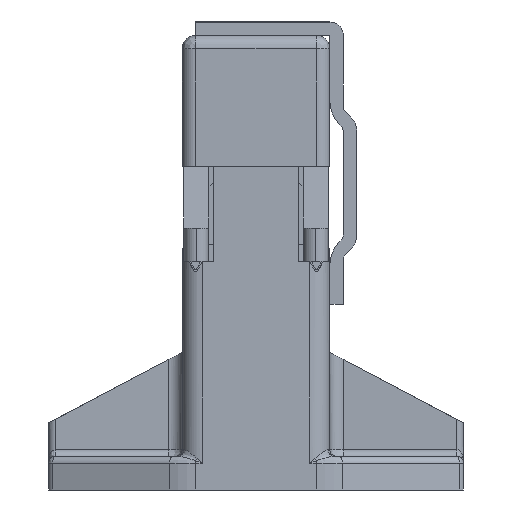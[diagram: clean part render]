
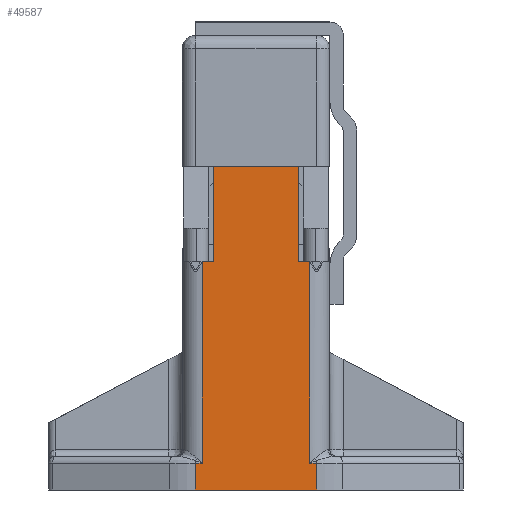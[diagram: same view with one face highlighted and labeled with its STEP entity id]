
A CAD part, left-side view. The second image highlights one B-rep face of the part: STEP entity #49587.
In plain terms, the highlighted planar face has unit normal (-1, 0, 0).
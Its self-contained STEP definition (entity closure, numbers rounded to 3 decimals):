
#695 = DIRECTION ( 'NONE',  ( 0., 1., 0. ) ) ;
#1326 = EDGE_LOOP ( 'NONE', ( #55541, #11215, #26771, #41284, #25121, #40634, #37547, #50617, #35935, #17208, #10681, #40101 ) ) ;
#2056 = AXIS2_PLACEMENT_3D ( 'NONE', #47316, #41494, #695 ) ;
#2362 = DIRECTION ( 'NONE',  ( 0., -1., 0. ) ) ;
#2438 = VECTOR ( 'NONE', #2362, 1000. ) ;
#3015 = DIRECTION ( 'NONE',  ( 0., -1., 0. ) ) ;
#3184 = EDGE_CURVE ( 'NONE', #8952, #31381, #25852, .T. ) ;
#3708 = VECTOR ( 'NONE', #61520, 1000. ) ;
#3818 = EDGE_CURVE ( 'NONE', #61572, #52000, #31095, .T. ) ;
#5808 = EDGE_CURVE ( 'NONE', #63751, #55488, #41902, .T. ) ;
#6009 = LINE ( 'NONE', #42685, #28343 ) ;
#6583 = EDGE_CURVE ( 'NONE', #8952, #55488, #39035, .T. ) ;
#8381 = VERTEX_POINT ( 'NONE', #62496 ) ;
#8471 = VECTOR ( 'NONE', #10167, 1000. ) ;
#8952 = VERTEX_POINT ( 'NONE', #13953 ) ;
#9853 = CARTESIAN_POINT ( 'NONE',  ( -193.899, -11., 10. ) ) ;
#10167 = DIRECTION ( 'NONE',  ( 0., 0., -1. ) ) ;
#10681 = ORIENTED_EDGE ( 'NONE', *, *, #66792, .F. ) ;
#11215 = ORIENTED_EDGE ( 'NONE', *, *, #35086, .F. ) ;
#11462 = DIRECTION ( 'NONE',  ( 0., 0., 1. ) ) ;
#11926 = DIRECTION ( 'NONE',  ( 0., -1., 0. ) ) ;
#12442 = EDGE_CURVE ( 'NONE', #63751, #62540, #49315, .T. ) ;
#12972 = DIRECTION ( 'NONE',  ( 0., -1., 0. ) ) ;
#13162 = CARTESIAN_POINT ( 'NONE',  ( -193.899, -8., -20. ) ) ;
#13953 = CARTESIAN_POINT ( 'NONE',  ( -193.899, 6.4, 24.2 ) ) ;
#15296 = LINE ( 'NONE', #21459, #8471 ) ;
#16323 = LINE ( 'NONE', #9853, #28707 ) ;
#16686 = CARTESIAN_POINT ( 'NONE',  ( -193.899, -6.4, 10. ) ) ;
#17208 = ORIENTED_EDGE ( 'NONE', *, *, #3184, .T. ) ;
#17247 = VECTOR ( 'NONE', #60803, 1000. ) ;
#20989 = CARTESIAN_POINT ( 'NONE',  ( -193.899, -6.4, 24.2 ) ) ;
#21459 = CARTESIAN_POINT ( 'NONE',  ( -193.899, -8., -23.243 ) ) ;
#21519 = VERTEX_POINT ( 'NONE', #38505 ) ;
#22133 = VECTOR ( 'NONE', #41042, 1000. ) ;
#25121 = ORIENTED_EDGE ( 'NONE', *, *, #45957, .F. ) ;
#25559 = VERTEX_POINT ( 'NONE', #13162 ) ;
#25852 = LINE ( 'NONE', #35168, #3708 ) ;
#26283 = CARTESIAN_POINT ( 'NONE',  ( -193.899, 11., -20. ) ) ;
#26384 = PLANE ( 'NONE',  #2056 ) ;
#26596 = DIRECTION ( 'NONE',  ( 0., -1., 0. ) ) ;
#26771 = ORIENTED_EDGE ( 'NONE', *, *, #46037, .T. ) ;
#28029 = LINE ( 'NONE', #59556, #47842 ) ;
#28343 = VECTOR ( 'NONE', #11462, 1000. ) ;
#28707 = VECTOR ( 'NONE', #26596, 1000. ) ;
#28791 = CARTESIAN_POINT ( 'NONE',  ( -193.899, 6.4, 10. ) ) ;
#29044 = VERTEX_POINT ( 'NONE', #66638 ) ;
#30722 = LINE ( 'NONE', #36892, #58201 ) ;
#30880 = CARTESIAN_POINT ( 'NONE',  ( -193.899, -6.4, 24.2 ) ) ;
#30926 = VECTOR ( 'NONE', #12972, 1000. ) ;
#31095 = LINE ( 'NONE', #26283, #22133 ) ;
#31381 = VERTEX_POINT ( 'NONE', #28791 ) ;
#32953 = EDGE_CURVE ( 'NONE', #21519, #8381, #39921, .T. ) ;
#35086 = EDGE_CURVE ( 'NONE', #39579, #61572, #6009, .T. ) ;
#35168 = CARTESIAN_POINT ( 'NONE',  ( -193.899, 6.4, 24.2 ) ) ;
#35935 = ORIENTED_EDGE ( 'NONE', *, *, #6583, .F. ) ;
#36094 = DIRECTION ( 'NONE',  ( 0., 0., 1. ) ) ;
#36892 = CARTESIAN_POINT ( 'NONE',  ( -193.899, 8., -23.243 ) ) ;
#37547 = ORIENTED_EDGE ( 'NONE', *, *, #12442, .F. ) ;
#38505 = CARTESIAN_POINT ( 'NONE',  ( -193.899, -9.011, -20. ) ) ;
#39035 = LINE ( 'NONE', #59919, #30926 ) ;
#39579 = VERTEX_POINT ( 'NONE', #43293 ) ;
#39921 = LINE ( 'NONE', #40921, #17247 ) ;
#40101 = ORIENTED_EDGE ( 'NONE', *, *, #51305, .F. ) ;
#40323 = VECTOR ( 'NONE', #36094, 1000. ) ;
#40634 = ORIENTED_EDGE ( 'NONE', *, *, #46180, .F. ) ;
#40690 = CARTESIAN_POINT ( 'NONE',  ( -193.899, -11., -24. ) ) ;
#40921 = CARTESIAN_POINT ( 'NONE',  ( -193.899, -9.011, 10. ) ) ;
#41001 = DIRECTION ( 'NONE',  ( 0., 0., 1. ) ) ;
#41042 = DIRECTION ( 'NONE',  ( 0., -1., 0. ) ) ;
#41284 = ORIENTED_EDGE ( 'NONE', *, *, #32953, .F. ) ;
#41494 = DIRECTION ( 'NONE',  ( 1., 0., 0. ) ) ;
#41902 = LINE ( 'NONE', #20989, #40323 ) ;
#42169 = FACE_OUTER_BOUND ( 'NONE', #1326, .T. ) ;
#42322 = CARTESIAN_POINT ( 'NONE',  ( -193.899, -8., 10. ) ) ;
#42685 = CARTESIAN_POINT ( 'NONE',  ( -193.899, 9.011, 10. ) ) ;
#43293 = CARTESIAN_POINT ( 'NONE',  ( -193.899, 9.011, -24. ) ) ;
#45957 = EDGE_CURVE ( 'NONE', #25559, #21519, #28029, .T. ) ;
#46037 = EDGE_CURVE ( 'NONE', #39579, #8381, #61918, .T. ) ;
#46180 = EDGE_CURVE ( 'NONE', #62540, #25559, #15296, .T. ) ;
#47316 = CARTESIAN_POINT ( 'NONE',  ( -193.899, 11., 10. ) ) ;
#47842 = VECTOR ( 'NONE', #11926, 1000. ) ;
#49315 = LINE ( 'NONE', #58892, #2438 ) ;
#49587 = ADVANCED_FACE ( 'NONE', ( #42169 ), #26384, .F. ) ;
#50617 = ORIENTED_EDGE ( 'NONE', *, *, #5808, .T. ) ;
#51117 = VECTOR ( 'NONE', #3015, 1000. ) ;
#51305 = EDGE_CURVE ( 'NONE', #52000, #29044, #30722, .T. ) ;
#52000 = VERTEX_POINT ( 'NONE', #55072 ) ;
#52244 = CARTESIAN_POINT ( 'NONE',  ( -193.899, 9.011, -20. ) ) ;
#55072 = CARTESIAN_POINT ( 'NONE',  ( -193.899, 8., -20. ) ) ;
#55488 = VERTEX_POINT ( 'NONE', #30880 ) ;
#55541 = ORIENTED_EDGE ( 'NONE', *, *, #3818, .F. ) ;
#58201 = VECTOR ( 'NONE', #41001, 1000. ) ;
#58892 = CARTESIAN_POINT ( 'NONE',  ( -193.899, -11., 10. ) ) ;
#59556 = CARTESIAN_POINT ( 'NONE',  ( -193.899, 11., -20. ) ) ;
#59919 = CARTESIAN_POINT ( 'NONE',  ( -193.899, 11., 24.2 ) ) ;
#60803 = DIRECTION ( 'NONE',  ( 0., 0., -1. ) ) ;
#61520 = DIRECTION ( 'NONE',  ( 0., 0., -1. ) ) ;
#61572 = VERTEX_POINT ( 'NONE', #52244 ) ;
#61918 = LINE ( 'NONE', #40690, #51117 ) ;
#62496 = CARTESIAN_POINT ( 'NONE',  ( -193.899, -9.011, -24. ) ) ;
#62540 = VERTEX_POINT ( 'NONE', #42322 ) ;
#63751 = VERTEX_POINT ( 'NONE', #16686 ) ;
#66638 = CARTESIAN_POINT ( 'NONE',  ( -193.899, 8., 10. ) ) ;
#66792 = EDGE_CURVE ( 'NONE', #29044, #31381, #16323, .T. ) ;
